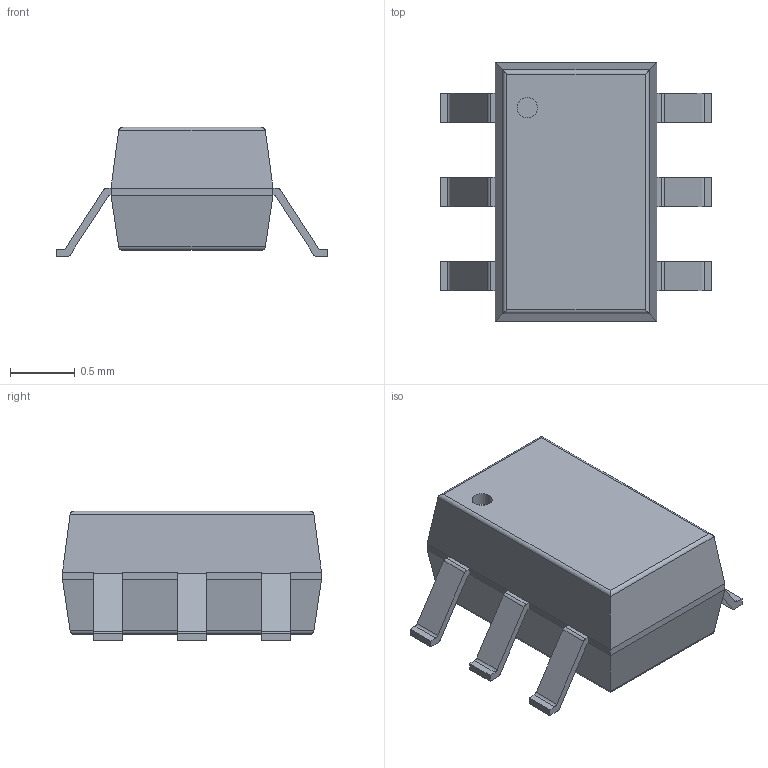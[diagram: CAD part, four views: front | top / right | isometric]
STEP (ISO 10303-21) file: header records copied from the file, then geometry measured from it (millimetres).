
FILE_DESCRIPTION(('FreeCAD Model'),'2;1');
FILE_NAME('/var/www/3D/0T/919447.1.1.stp','2020-12-06T11:38:10',( 'Author'),(''),'Open CASCADE STEP processor 6.9','FreeCAD','Unknown' );
FILE_SCHEMA(('AUTOMOTIVE_DESIGN { 1 0 10303 214 1 1 1 1 }'));
Length unit declared in the file: millimetre
Products named in the file (3): ASSEMBLY; Body; PinsArrayLR
Assembly tree (2 placements, depth 2):
  ASSEMBLY
    Body
    PinsArrayLR
Bounding box: 2.1 x 2 x 1 mm (x, y, z)
Volume: 2.2 mm3; surface area: 12.6 mm2
Topology: 7 solids, 7 shells, 102 faces, 245 edges, 158 vertices
Faces by surface type: plane 75, cylinder 27
Full cylindrical faces by diameter (mm): 0.156 x1
Entity records: 6351 total; most frequent: CARTESIAN_POINT 1246, DIRECTION 945, LINE 623, VECTOR 623, ORIENTED_EDGE 490, PCURVE 490, DEFINITIONAL_REPRESENTATION 490, EDGE_CURVE 245
